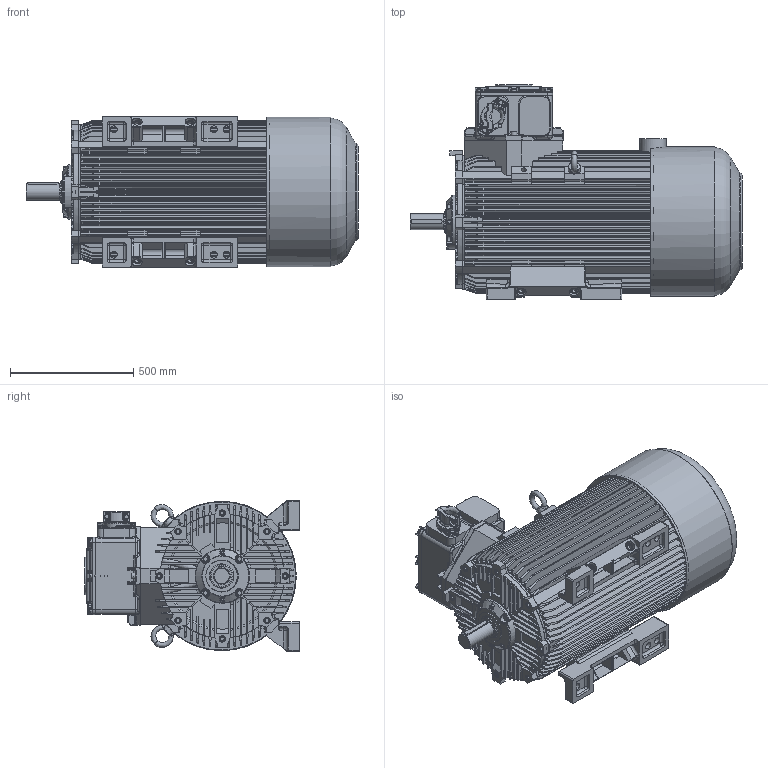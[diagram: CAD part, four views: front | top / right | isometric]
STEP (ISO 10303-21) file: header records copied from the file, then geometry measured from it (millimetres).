
FILE_DESCRIPTION(/* description */ ('Unknown'),/* implementation_level */ '2;1');
FILE_NAME(/* name */ 'EcSTe(b)315M2(B,C)-N-IE(2,3)',/* time_stamp */ '2022-04-19T14:18:56+02:00',/* author */ ('Unknown'),/* organization */ ('Unknown'),/* preprocessor_version */ 'ST-DEVELOPER v16.7',/* originating_system */ 'DEX',/* authorisation */ $);
FILE_SCHEMA (('AUTOMOTIVE_DESIGN {1 0 10303 214 3 1 1}'));
Length unit declared in the file: millimetre
Products named in the file (1): EcSTe(b)315M2(B,C)-N-IE(2,3)
Bounding box: 1344.96 x 870 x 610.06 mm (x, y, z)
Volume: 302825912.6 mm3; surface area: 7605668.2 mm2
Topology: 1 solids, 66 shells, 3827 faces, 9750 edges, 6053 vertices
Faces by surface type: plane 1499, cylinder 1231, torus 369, cone 360, bspline 259, sphere 109
Full cylindrical faces by diameter (mm): 3 x4, 3.2 x2, 8.16 x4, 8.376 x8, 10 x10, 11 x6, 12 x2, 13.546 x11, 13.835 x11, 14.63 x8, 16 x20, 17.5 x16, 18 x8, 19.6 x2, 20.319 x4, 20.752 x10, 24 x12, 26 x12, 28 x6, 40 x4, 62 x1, 65 x1, 67 x1, 81.5 x1, 82 x1, 85 x1, 87 x1, 104 x1, 106 x1, 127.697 x2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
Entity records: 149633 total; most frequent: CARTESIAN_POINT 33720, DIRECTION 18782, ORIENTED_EDGE 18326, EDGE_CURVE 9163, AXIS2_PLACEMENT_3D 7229, VERTEX_POINT 5893, FACE_BOUND 4346, EDGE_LOOP 4331
